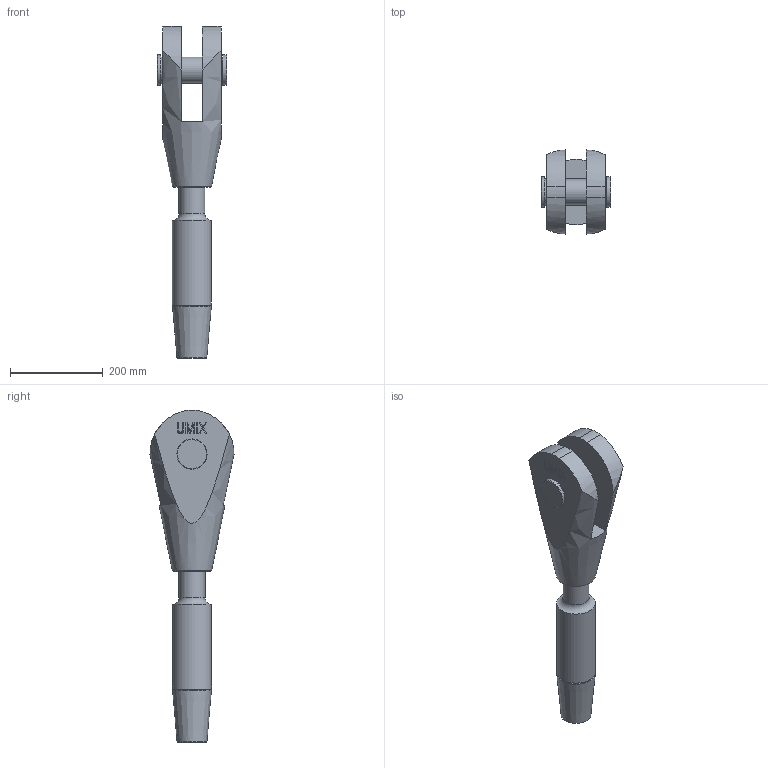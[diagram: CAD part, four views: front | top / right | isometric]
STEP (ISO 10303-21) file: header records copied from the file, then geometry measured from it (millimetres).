
FILE_DESCRIPTION(/* description */ (''),/* implementation_level */ '2;1');
FILE_NAME(/* name */ 'G:\Engineering\700 CAD\Internet-PX-1-step-igs-dxf\520-GAK-ADA-Arbeitsdateien\520-056-GAK-ADA.stp',/* time_stamp */ '2020-07-03T13:11:24+02:00',/* author */ ('schwarz'),/* organization */ (''),/* preprocessor_version */ 'ST-DEVELOPER v16.1',/* originating_system */ 'Autodesk Inventor 2016',/* authorisation */ '');
FILE_SCHEMA (('AUTOMOTIVE_DESIGN { 1 0 10303 214 3 1 1 }'));
Length unit declared in the file: centimetre
Products named in the file (1): 520-056-GAK-ADA-Kunde
Bounding box: 149.44 x 181.03 x 714.39 mm (x, y, z)
Volume: 5330948 mm3; surface area: 364795.5 mm2
Topology: 2 solids, 4 shells, 192 faces, 493 edges, 326 vertices
Faces by surface type: plane 138, bspline 21, cylinder 18, cone 14, torus 1
Full cylindrical faces by diameter (mm): 10.106 x1, 12 x1, 13.5 x1, 23.12 x1, 56 x2, 58.5 x1, 59 x2, 65 x2, 84 x1
Entity records: 5903 total; most frequent: CARTESIAN_POINT 1290, ORIENTED_EDGE 912, DIRECTION 792, EDGE_CURVE 456, LINE 348, VECTOR 348, VERTEX_POINT 316, EDGE_LOOP 242
